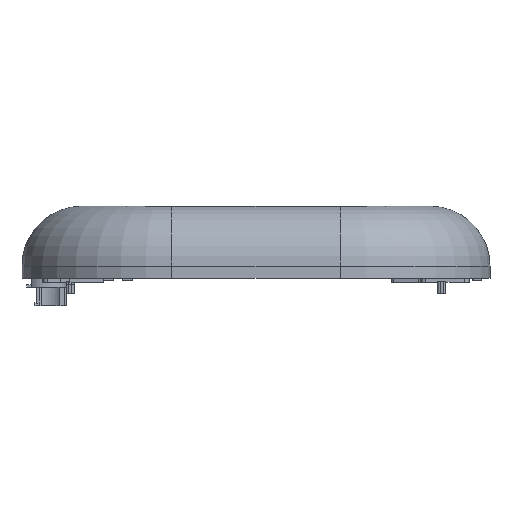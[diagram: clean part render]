
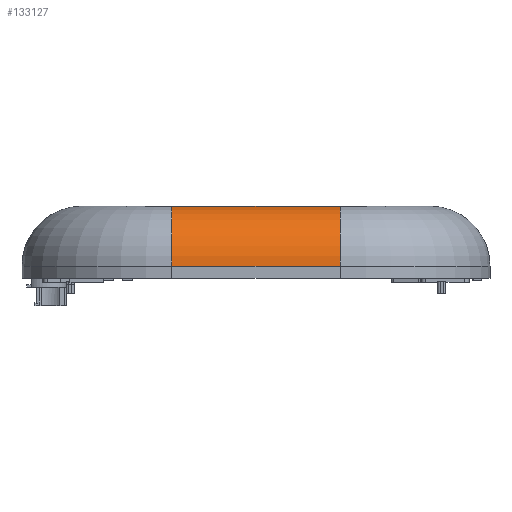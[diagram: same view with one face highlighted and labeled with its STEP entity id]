
A CAD part, front view. The second image highlights one B-rep face of the part: STEP entity #133127.
In plain terms, the highlighted cylindrical face has radius 10 mm (diameter 20 mm), a partial arc.
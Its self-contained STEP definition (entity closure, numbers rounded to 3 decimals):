
#70961 = PLANE('',#70962);
#70962 = AXIS2_PLACEMENT_3D('',#70963,#70964,#70965);
#70963 = CARTESIAN_POINT('',(0.,0.,0.));
#70964 = DIRECTION('',(0.,0.,1.));
#70965 = DIRECTION('',(1.,0.,-0.));
#110053 = VERTEX_POINT('',#110054);
#110054 = CARTESIAN_POINT('',(-14.,-65.,0.));
#110073 = TOROIDAL_SURFACE('',#110074,15.,10.);
#110074 = AXIS2_PLACEMENT_3D('',#110075,#110076,#110077);
#110075 = CARTESIAN_POINT('',(-14.,-50.,-10.));
#110076 = DIRECTION('',(0.,0.,1.));
#110077 = DIRECTION('',(1.,0.,-0.));
#110085 = EDGE_CURVE('',#110086,#110053,#110088,.T.);
#110086 = VERTEX_POINT('',#110087);
#110087 = CARTESIAN_POINT('',(14.,-65.,0.));
#110088 = SURFACE_CURVE('',#110089,(#110093,#110100),.PCURVE_S1.);
#110089 = LINE('',#110090,#110091);
#110090 = CARTESIAN_POINT('',(0.,-65.,0.));
#110091 = VECTOR('',#110092,1.);
#110092 = DIRECTION('',(-1.,0.,0.));
#110093 = PCURVE('',#70961,#110094);
#110094 = DEFINITIONAL_REPRESENTATION('',(#110095),#110099);
#110095 = LINE('',#110096,#110097);
#110096 = CARTESIAN_POINT('',(0.,-65.));
#110097 = VECTOR('',#110098,1.);
#110098 = DIRECTION('',(-1.,0.));
#110099 = ( GEOMETRIC_REPRESENTATION_CONTEXT(2) 
PARAMETRIC_REPRESENTATION_CONTEXT() REPRESENTATION_CONTEXT('2D SPACE',''
  ) );
#110100 = PCURVE('',#110101,#110106);
#110101 = CYLINDRICAL_SURFACE('',#110102,10.);
#110102 = AXIS2_PLACEMENT_3D('',#110103,#110104,#110105);
#110103 = CARTESIAN_POINT('',(0.,-65.,-10.));
#110104 = DIRECTION('',(1.,0.,0.));
#110105 = DIRECTION('',(0.,-0.707,0.707));
#110106 = DEFINITIONAL_REPRESENTATION('',(#110107),#110111);
#110107 = LINE('',#110108,#110109);
#110108 = CARTESIAN_POINT('',(5.498,0.));
#110109 = VECTOR('',#110110,1.);
#110110 = DIRECTION('',(0.,-1.));
#110111 = ( GEOMETRIC_REPRESENTATION_CONTEXT(2) 
PARAMETRIC_REPRESENTATION_CONTEXT() REPRESENTATION_CONTEXT('2D SPACE',''
  ) );
#110134 = TOROIDAL_SURFACE('',#110135,15.,10.);
#110135 = AXIS2_PLACEMENT_3D('',#110136,#110137,#110138);
#110136 = CARTESIAN_POINT('',(14.,-50.,-10.));
#110137 = DIRECTION('',(0.,0.,1.));
#110138 = DIRECTION('',(1.,0.,-0.));
#114332 = PLANE('',#114333);
#114333 = AXIS2_PLACEMENT_3D('',#114334,#114335,#114336);
#114334 = CARTESIAN_POINT('',(0.,-75.,-12.));
#114335 = DIRECTION('',(0.,1.,0.));
#114336 = DIRECTION('',(0.,-0.,1.));
#133080 = EDGE_CURVE('',#133081,#110053,#133083,.T.);
#133081 = VERTEX_POINT('',#133082);
#133082 = CARTESIAN_POINT('',(-14.,-75.,-10.));
#133083 = SURFACE_CURVE('',#133084,(#133089,#133096),.PCURVE_S1.);
#133084 = CIRCLE('',#133085,10.);
#133085 = AXIS2_PLACEMENT_3D('',#133086,#133087,#133088);
#133086 = CARTESIAN_POINT('',(-14.,-65.,-10.));
#133087 = DIRECTION('',(-1.,0.,0.));
#133088 = DIRECTION('',(0.,-1.,0.));
#133089 = PCURVE('',#110073,#133090);
#133090 = DEFINITIONAL_REPRESENTATION('',(#133091),#133095);
#133091 = LINE('',#133092,#133093);
#133092 = CARTESIAN_POINT('',(4.712,0.));
#133093 = VECTOR('',#133094,1.);
#133094 = DIRECTION('',(0.,1.));
#133095 = ( GEOMETRIC_REPRESENTATION_CONTEXT(2) 
PARAMETRIC_REPRESENTATION_CONTEXT() REPRESENTATION_CONTEXT('2D SPACE',''
  ) );
#133096 = PCURVE('',#110101,#133097);
#133097 = DEFINITIONAL_REPRESENTATION('',(#133098),#133102);
#133098 = LINE('',#133099,#133100);
#133099 = CARTESIAN_POINT('',(7.069,-14.));
#133100 = VECTOR('',#133101,1.);
#133101 = DIRECTION('',(-1.,0.));
#133102 = ( GEOMETRIC_REPRESENTATION_CONTEXT(2) 
PARAMETRIC_REPRESENTATION_CONTEXT() REPRESENTATION_CONTEXT('2D SPACE',''
  ) );
#133127 = ADVANCED_FACE('',(#133128),#110101,.T.);
#133128 = FACE_BOUND('',#133129,.T.);
#133129 = EDGE_LOOP('',(#133130,#133154,#133155,#133156));
#133130 = ORIENTED_EDGE('',*,*,#133131,.T.);
#133131 = EDGE_CURVE('',#133132,#110086,#133134,.T.);
#133132 = VERTEX_POINT('',#133133);
#133133 = CARTESIAN_POINT('',(14.,-75.,-10.));
#133134 = SURFACE_CURVE('',#133135,(#133140,#133147),.PCURVE_S1.);
#133135 = CIRCLE('',#133136,10.);
#133136 = AXIS2_PLACEMENT_3D('',#133137,#133138,#133139);
#133137 = CARTESIAN_POINT('',(14.,-65.,-10.));
#133138 = DIRECTION('',(-1.,0.,0.));
#133139 = DIRECTION('',(0.,-1.,0.));
#133140 = PCURVE('',#110101,#133141);
#133141 = DEFINITIONAL_REPRESENTATION('',(#133142),#133146);
#133142 = LINE('',#133143,#133144);
#133143 = CARTESIAN_POINT('',(7.069,14.));
#133144 = VECTOR('',#133145,1.);
#133145 = DIRECTION('',(-1.,0.));
#133146 = ( GEOMETRIC_REPRESENTATION_CONTEXT(2) 
PARAMETRIC_REPRESENTATION_CONTEXT() REPRESENTATION_CONTEXT('2D SPACE',''
  ) );
#133147 = PCURVE('',#110134,#133148);
#133148 = DEFINITIONAL_REPRESENTATION('',(#133149),#133153);
#133149 = LINE('',#133150,#133151);
#133150 = CARTESIAN_POINT('',(4.712,0.));
#133151 = VECTOR('',#133152,1.);
#133152 = DIRECTION('',(0.,1.));
#133153 = ( GEOMETRIC_REPRESENTATION_CONTEXT(2) 
PARAMETRIC_REPRESENTATION_CONTEXT() REPRESENTATION_CONTEXT('2D SPACE',''
  ) );
#133154 = ORIENTED_EDGE('',*,*,#110085,.T.);
#133155 = ORIENTED_EDGE('',*,*,#133080,.F.);
#133156 = ORIENTED_EDGE('',*,*,#133157,.T.);
#133157 = EDGE_CURVE('',#133081,#133132,#133158,.T.);
#133158 = SURFACE_CURVE('',#133159,(#133163,#133170),.PCURVE_S1.);
#133159 = LINE('',#133160,#133161);
#133160 = CARTESIAN_POINT('',(0.,-75.,-10.));
#133161 = VECTOR('',#133162,1.);
#133162 = DIRECTION('',(1.,0.,0.));
#133163 = PCURVE('',#110101,#133164);
#133164 = DEFINITIONAL_REPRESENTATION('',(#133165),#133169);
#133165 = LINE('',#133166,#133167);
#133166 = CARTESIAN_POINT('',(7.069,0.));
#133167 = VECTOR('',#133168,1.);
#133168 = DIRECTION('',(0.,1.));
#133169 = ( GEOMETRIC_REPRESENTATION_CONTEXT(2) 
PARAMETRIC_REPRESENTATION_CONTEXT() REPRESENTATION_CONTEXT('2D SPACE',''
  ) );
#133170 = PCURVE('',#114332,#133171);
#133171 = DEFINITIONAL_REPRESENTATION('',(#133172),#133176);
#133172 = LINE('',#133173,#133174);
#133173 = CARTESIAN_POINT('',(2.,0.));
#133174 = VECTOR('',#133175,1.);
#133175 = DIRECTION('',(0.,1.));
#133176 = ( GEOMETRIC_REPRESENTATION_CONTEXT(2) 
PARAMETRIC_REPRESENTATION_CONTEXT() REPRESENTATION_CONTEXT('2D SPACE',''
  ) );
